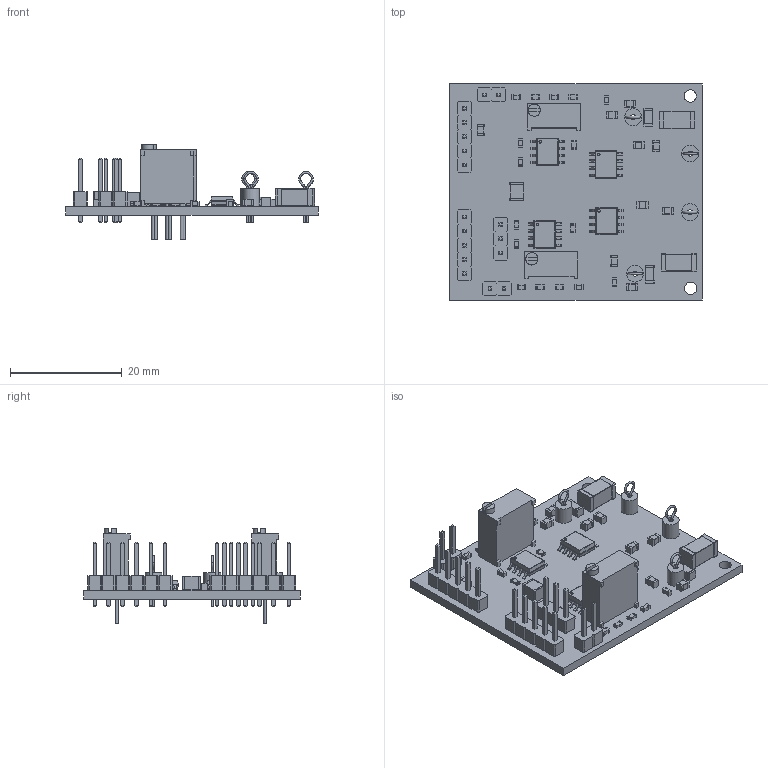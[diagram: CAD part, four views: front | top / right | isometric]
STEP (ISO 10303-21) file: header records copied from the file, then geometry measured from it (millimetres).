
FILE_DESCRIPTION(('KiCad electronic assembly'),'2;1');
FILE_NAME('InductiveSensor.step','2022-11-23T08:30:47',('An Author'),( 'A Company'),'Open CASCADE STEP processor 6.9', 'KiCad to STEP converter','Unknown');
FILE_SCHEMA(('AUTOMOTIVE_DESIGN { 1 0 10303 214 1 1 1 1 }'));
Length unit declared in the file: millimetre
Products named in the file (28): Open CASCADE STEP translator 6.9 1; PinHeader_1x03_P2.54mm_Vertical; SOLID; PinHeader_1x02_P2.54mm_Vertical; PinHeader_1x05_P2.54mm_Vertical; C_0805_2012Metric; TestPoint_Loop_D2.60mm_Drill0.9mm_Beaded; COMPOUND; R_0603_1608Metric; C_2512_6332Metric; L_0805_2012Metric; C_0603_1608Metric; C_1206_3216Metric; Potentiometer_Bourns_3296W_Vertical; Si8621BB-B-IS; C_1210_3225Metric
Assembly tree (59 placements, depth 3):
  Open CASCADE STEP translator 6.9 1
    PinHeader_1x03_P2.54mm_Vertical
      SOLID
    PinHeader_1x02_P2.54mm_Vertical  x2
      SOLID
    PinHeader_1x05_P2.54mm_Vertical  x2
      SOLID
    C_0805_2012Metric  x7
      SOLID
    TestPoint_Loop_D2.60mm_Drill0.9mm_Beaded  x4
      COMPOUND
    R_0603_1608Metric  x8
      SOLID
    C_2512_6332Metric  x2
      SOLID
    L_0805_2012Metric  x2
      SOLID
    C_0603_1608Metric  x8
      SOLID
    C_1206_3216Metric  x2
      SOLID
    Potentiometer_Bourns_3296W_Vertical  x2
      SOLID
    Si8621BB-B-IS  x4
      COMPOUND
    C_1210_3225Metric
      SOLID
    COMPOUND
Bounding box: 45.25 x 38.75 x 17.07 mm (x, y, z)
Volume: 4335.5 mm3; surface area: 6674.9 mm2
Topology: 82 solids, 82 shells, 1909 faces, 4717 edges, 3062 vertices
Faces by surface type: plane 1384, cylinder 513, bspline 8, torus 4
Full cylindrical faces by diameter (mm): 0.35 x8, 0.487 x4, 0.51 x6, 0.8 x6, 0.9 x8, 1 x17, 2.19 x2, 2.2 x2, 3 x4
Entity records: 45340 total; most frequent: CARTESIAN_POINT 7977, DIRECTION 6412, LINE 4215, VECTOR 4215, ORIENTED_EDGE 3218, PCURVE 3218, DEFINITIONAL_REPRESENTATION 3218, EDGE_CURVE 1609
